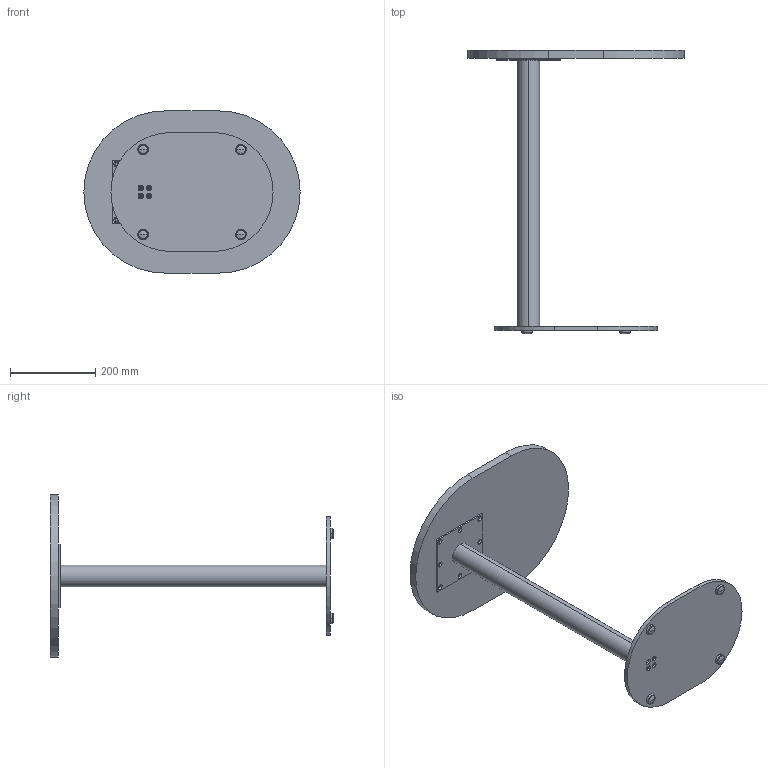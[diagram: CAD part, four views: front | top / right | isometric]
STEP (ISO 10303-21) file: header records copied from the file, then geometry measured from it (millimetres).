
FILE_DESCRIPTION (( 'STEP AP203' ), '1' );
FILE_NAME ('SIEN-LAP-1115-LONG-FX.STEP', '2024-10-15T18:42:54', ( '' ), ( '' ), 'SwSTEP 2.0', 'SolidWorks 2021', '' );
FILE_SCHEMA (( 'CONFIG_CONTROL_DESIGN' ));
Length unit declared in the file: inch
Products named in the file (10): Welded C-2.25 Col Prototype; TT-15X20-RC_.75 thk.; 15x11-RC_Base_Assy.; SIEN-LAP-1115-LONG-FX; 90720A520_Heavy Duty Twist-Resistant Rivet Nut_90720A520; C2.25 Column Insert Plate; ALG-SS; 150mm Square Plate; 15x11 Racetrack Base; C2.25 Column
Assembly tree (15 placements, depth 3):
  SIEN-LAP-1115-LONG-FX
    15x11-RC_Base_Assy.
      15x11 Racetrack Base
      ALG-SS  x4
    Welded C-2.25 Col Prototype
      150mm Square Plate
      C2.25 Column
      C2.25 Column Insert Plate
      90720A520_Heavy Duty Twist-Resistant Rivet Nut_90720A520  x4
    TT-15X20-RC_.75 thk.
Bounding box: 508 x 666.75 x 381 mm (x, y, z)
Volume: 4259944.2 mm3; surface area: 799014.6 mm2
Topology: 17 solids, 17 shells, 545 faces, 1281 edges, 774 vertices
Faces by surface type: cylinder 219, cone 192, plane 98, bspline 20, sphere 8, torus 8
Entity records: 11590 total; most frequent: CARTESIAN_POINT 4890, DIRECTION 1185, ORIENTED_EDGE 1112, EDGE_CURVE 556, AXIS2_PLACEMENT_3D 451, VERTEX_POINT 345, VECTOR 283, LINE 283
